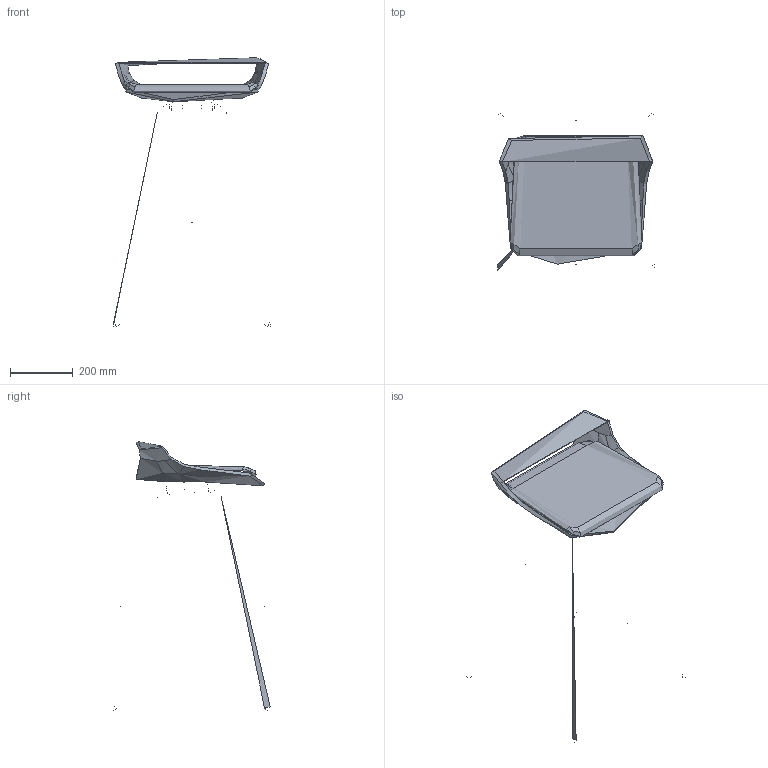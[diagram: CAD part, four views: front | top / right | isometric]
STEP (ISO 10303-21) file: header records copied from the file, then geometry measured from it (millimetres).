
FILE_DESCRIPTION(/* description */ (''),/* implementation_level */ '2;1');
FILE_NAME(/* name */ 'Lotus bar sed',/* time_stamp */ '2024-02-28T20:21:55+01:00',/* author */ (''),/* organization */ (''),/* preprocessor_version */ 'ST-DEVELOPER v16.5',/* originating_system */ 'Rhino 7.35',/* authorisation */ '');
FILE_SCHEMA (('CONFIG_CONTROL_DESIGN'));
Length unit declared in the file: millimetre
Products named in the file (1): Document
Bounding box: 502.45 x 498.55 x 856.45 mm (x, y, z)
Volume: 3233929.7 mm3; surface area: 1052397.8 mm2
Topology: 2 solids, 19 shells, 99 faces, 262 edges, 167 vertices
Faces by surface type: bspline 79, cylinder 20
Full cylindrical faces by diameter (mm): 14 x4, 16 x4, 18 x12
Entity records: 16258 total; most frequent: CARTESIAN_POINT 14637, ORIENTED_EDGE 469, EDGE_CURVE 251, B_SPLINE_CURVE_WITH_KNOTS 175, VERTEX_POINT 165, ADVANCED_FACE 99, FACE_OUTER_BOUND 99, EDGE_LOOP 99
